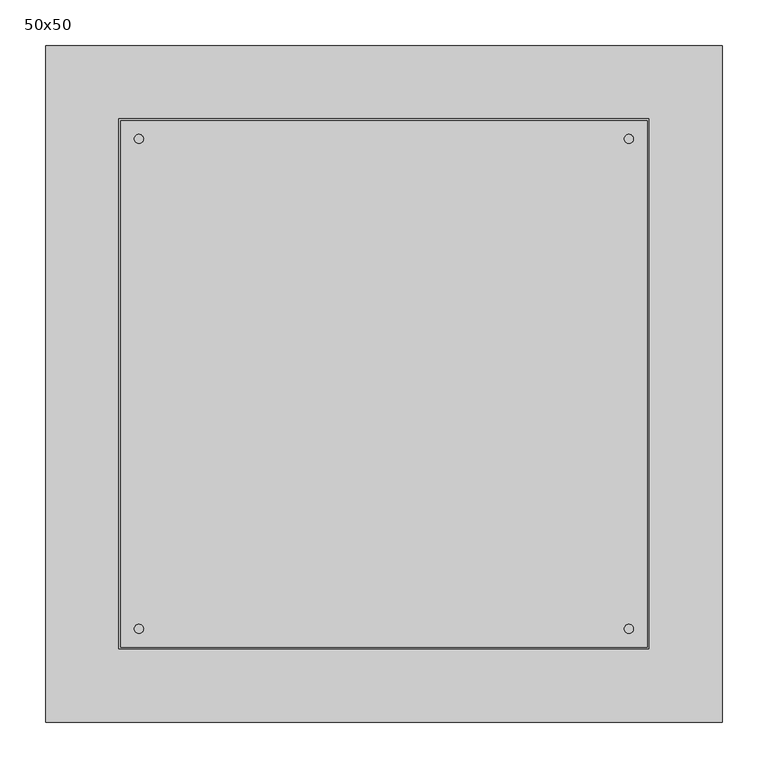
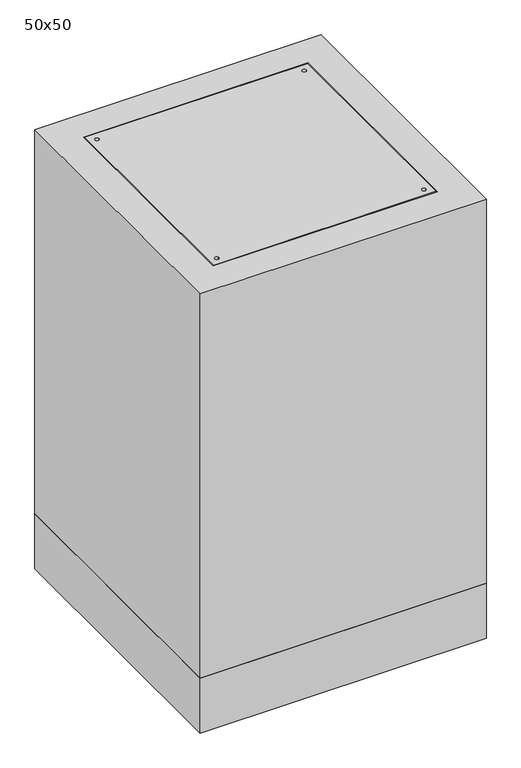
"""IFC4 building model written with IfcOpenShell, lengths in millimetres: proxy geometry, ARC_MDL_ME_Arqueta : 50x50."""

from ifc_helpers import new_model, si_unit, point, frame, frame_2d, origin, place, context, project, spatial, polyline, circle_curve, trimmed, segment, composite_curve, outline, extrude, faceted_brep, source, transform, mapped, element, save


def proxy_50x50_0a914695(model_context):
    return source(origin(), model_context, "Body", "SolidModel", [
        extrude(outline(polyline([(287.1537061, -285.2358215), (-288.8462939, -285.2358215), (-288.8462939, 290.7641785), (287.1537061, 290.7641785), (287.1537061, -285.2358215)]), holes=[composite_curve([segment(trimmed(circle_curve(frame_2d((-268.8462939, -265.2358215)), 5.0), [point((-273.8462939, -265.2358215))], [point((-263.8462939, -265.2358215))], True, "CARTESIAN"), True, "CONTINUOUS"), segment(trimmed(circle_curve(frame_2d((-268.8462939, -265.2358215)), 5.0), [point((-263.8462939, -265.2358215))], [point((-273.8462939, -265.2358215))], True, "CARTESIAN"), True, "CONTINUOUS")], self_intersect=False), composite_curve([segment(trimmed(circle_curve(frame_2d((267.1537061, -265.2358215)), 5.0), [point((262.1537061, -265.2358215))], [point((272.1537061, -265.2358215))], True, "CARTESIAN"), True, "CONTINUOUS"), segment(trimmed(circle_curve(frame_2d((267.1537061, -265.2358215)), 5.0), [point((272.1537061, -265.2358215))], [point((262.1537061, -265.2358215))], True, "CARTESIAN"), True, "CONTINUOUS")], self_intersect=False), composite_curve([segment(trimmed(circle_curve(frame_2d((267.1537061, 270.7641785)), 5.0), [point((262.1537061, 270.7641785))], [point((272.1537061, 270.7641785))], True, "CARTESIAN"), True, "CONTINUOUS"), segment(trimmed(circle_curve(frame_2d((267.1537061, 270.7641785)), 5.0), [point((272.1537061, 270.7641785))], [point((262.1537061, 270.7641785))], True, "CARTESIAN"), True, "CONTINUOUS")], self_intersect=False), composite_curve([segment(trimmed(circle_curve(frame_2d((-268.8462939, 270.7641785)), 5.0), [point((-273.8462939, 270.7641785))], [point((-263.8462939, 270.7641785))], True, "CARTESIAN"), True, "CONTINUOUS"), segment(trimmed(circle_curve(frame_2d((-268.8462939, 270.7641785)), 5.0), [point((-263.8462939, 270.7641785))], [point((-273.8462939, 270.7641785))], True, "CARTESIAN"), True, "CONTINUOUS")], self_intersect=False)]), frame((0.0, 0.0, -15.0), z_axis=(0.0, 0.0, 1.0), x_axis=(1.0, 0.0, 0.0)), (0.0, 0.0, 1.0), 15.0),
        extrude(outline(polyline([(369.1537061, -367.2358215), (-370.8462939, -367.2358215), (-370.8462939, 372.7641785), (369.1537061, 372.7641785), (369.1537061, -367.2358215)])), frame((0.0, 0.0, -1200.0), z_axis=(0.0, 0.0, 1.0), x_axis=(1.0, 0.0, 0.0)), (0.0, 0.0, 1.0), 150.0),
        faceted_brep([(369.1537061, 372.7641785, 0.0), (-370.8462939, 372.7641785, 0.0), (-370.8462939, -367.2358215, 0.0), (369.1537061, -367.2358215, 0.0), (-290.8462939, 292.7641785, 0.0), (289.1537061, 292.7641785, 0.0), (289.1537061, -287.2358215, 0.0), (-290.8462939, -287.2358215, 0.0), (369.1537061, -367.2358215, -1050.0), (369.1537061, 372.7641785, -1050.0), (-370.8462939, -367.2358215, -1050.0), (-370.8462939, 372.7641785, -1050.0), (-290.8462939, -287.2358215, -50.0), (-290.8462939, 292.7641785, -50.0), (289.1537061, -287.2358215, -50.0), (289.1537061, 292.7641785, -50.0), (-250.8462939, 252.7641785, -50.0), (249.1537061, 252.7641785, -50.0), (249.1537061, -247.2358215, -50.0), (-250.8462939, -247.2358215, -50.0), (-250.8462939, 252.7641785, -1050.0), (-250.8462939, -247.2358215, -1050.0), (249.1537061, -247.2358215, -1050.0), (249.1537061, 252.7641785, -1050.0)], [[[0, 1, 2, 3], [4, 5, 6, 7]], [[3, 8, 9, 0]], [[2, 10, 8, 3]], [[1, 11, 10, 2]], [[9, 11, 1, 0]], [[7, 12, 13, 4]], [[6, 14, 12, 7]], [[5, 15, 14, 6]], [[4, 13, 15, 5]], [[12, 14, 15, 13], [16, 17, 18, 19]], [[8, 10, 11, 9], [20, 21, 22, 23]], [[19, 21, 20, 16]], [[18, 22, 21, 19]], [[17, 23, 22, 18]], [[16, 20, 23, 17]]]),
    ])


if __name__ == "__main__":
    model = new_model("IFC4")
    model_context = context("Model", 3, world=origin())
    ifc_project = project(units=[si_unit("LENGTHUNIT", "METRE", prefix="MILLI")], contexts=[model_context])
    site = spatial("IfcSite", under=ifc_project)
    building = spatial("IfcBuilding", under=site)
    placement = place(None, origin())
    proxy_50x50_shape = proxy_50x50_0a914695(model_context)
    element("IfcBuildingElementProxy", 1, Name="ARC_MDL_ME_Arqueta : 50x50", ObjectType="ARC_MDL_ME_Arqueta : 50x50", at=placement, inside=building, context=model_context, shape_type="MappedRepresentation", body=[
        mapped(proxy_50x50_shape, transform((0.0, 0.0, 0.0), x_axis=(1.0, 0.0, 0.0), y_axis=(0.0, 1.0, 0.0), z_axis=(0.0, 0.0, 1.0))),
    ])
    save(model, "model.ifc")
